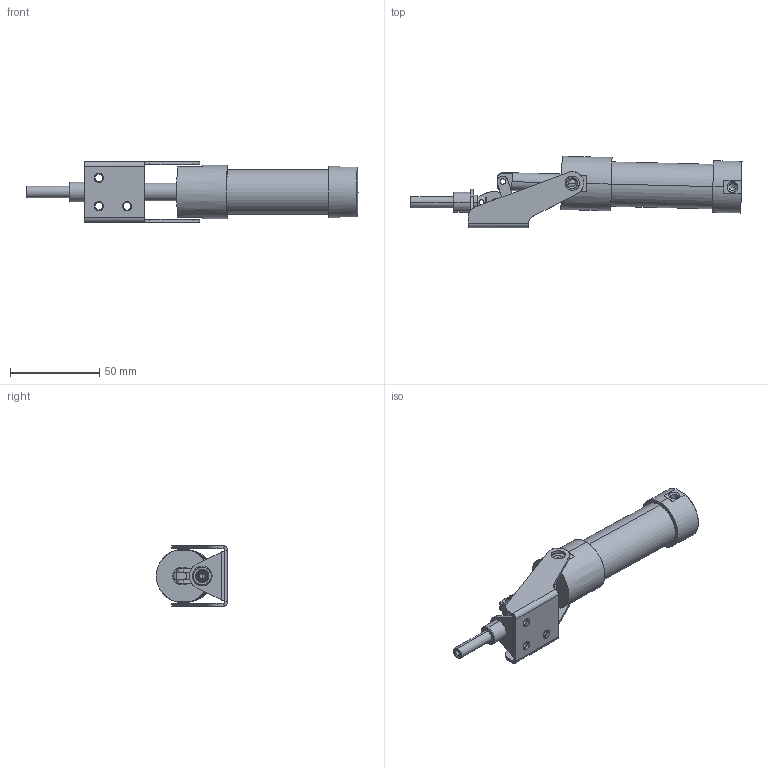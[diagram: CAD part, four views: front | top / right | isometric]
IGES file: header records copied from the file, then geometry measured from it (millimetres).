
Start section: SolidWorks IGES file using analytic representation for surfaces
Global section: file name: D:\GH Files\GH-SW-FILES\GH-A\36301A\36301A.IGS; native system: SolidWorks 2006 by SolidWorks Corporation; preprocessor: SolidWorks 2006 by SolidWorks Corporation; author: Administrator; date: 060526.122619; units: millimetre
Bounding box: 186.39 x 40.14 x 34 mm (x, y, z)
Surface area: 30707.2 mm2 (no closed solid volume)
Topology: 0 solids, 0 shells, 222 faces, 3989 edges, 3983 vertices
Faces by surface type: revolution 133, bspline 89
